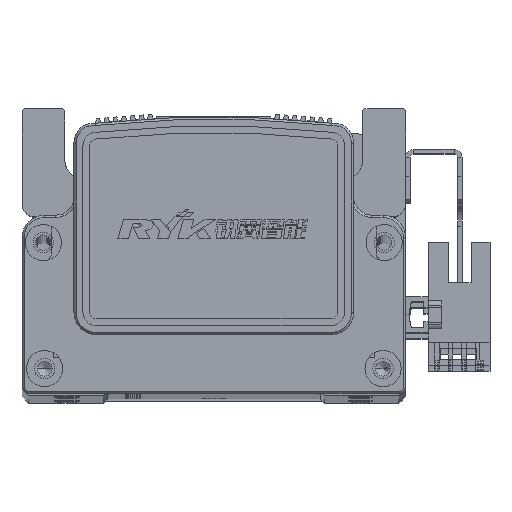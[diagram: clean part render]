
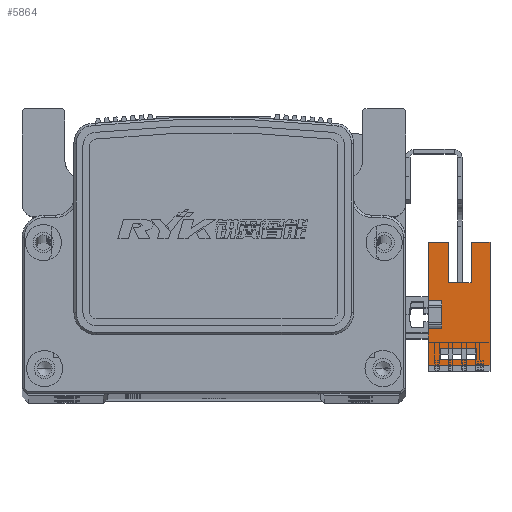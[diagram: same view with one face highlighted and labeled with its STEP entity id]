
A CAD part, top view. The second image highlights one B-rep face of the part: STEP entity #5864.
In plain terms, the highlighted planar face has unit normal (0, 0, 1) as drawn and (1, 0, 0) by its records, which use the part's own axes.
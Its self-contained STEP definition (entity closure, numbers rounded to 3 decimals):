
#179 = CARTESIAN_POINT ( 'NONE',  ( 3.2, 16.1, -6.5 ) ) ;
#1635 = VERTEX_POINT ( 'NONE', #179 ) ;
#5864 = ADVANCED_FACE ( 'NONE', ( #9162, #9169 ), #32457, .T. ) ;
#8737 = VERTEX_POINT ( 'NONE', #27479 ) ;
#8783 = VERTEX_POINT ( 'NONE', #26687 ) ;
#8789 = VERTEX_POINT ( 'NONE', #26702 ) ;
#8800 = VERTEX_POINT ( 'NONE', #26665 ) ;
#8814 = VERTEX_POINT ( 'NONE', #26649 ) ;
#8815 = VERTEX_POINT ( 'NONE', #26676 ) ;
#8835 = VERTEX_POINT ( 'NONE', #26681 ) ;
#8859 = VERTEX_POINT ( 'NONE', #26747 ) ;
#8863 = VERTEX_POINT ( 'NONE', #26746 ) ;
#9058 = VERTEX_POINT ( 'NONE', #26942 ) ;
#9063 = VERTEX_POINT ( 'NONE', #26949 ) ;
#9162 = FACE_OUTER_BOUND ( 'NONE', #33764, .T. ) ;
#9169 = FACE_BOUND ( 'NONE', #33774, .T. ) ;
#11793 = CARTESIAN_POINT ( 'NONE',  ( 3.2, 16.1, 3. ) ) ;
#11812 = CARTESIAN_POINT ( 'NONE',  ( 3.2, -3.1, 3. ) ) ;
#11824 = CARTESIAN_POINT ( 'NONE',  ( 3.2, 3.1, 3. ) ) ;
#11833 = CARTESIAN_POINT ( 'NONE',  ( 3.2, -11.1, 3. ) ) ;
#13202 = EDGE_CURVE ( 'NONE', #49712, #49723, #31430, .T. ) ;
#13234 = EDGE_CURVE ( 'NONE', #49713, #49749, #31476, .T. ) ;
#13241 = EDGE_CURVE ( 'NONE', #8737, #1635, #31485, .T. ) ;
#13341 = EDGE_CURVE ( 'NONE', #9058, #49712, #31511, .T. ) ;
#13358 = EDGE_CURVE ( 'NONE', #8863, #8814, #31640, .T. ) ;
#13371 = EDGE_CURVE ( 'NONE', #8789, #8737, #31670, .T. ) ;
#13396 = EDGE_CURVE ( 'NONE', #49749, #9063, #31688, .T. ) ;
#13466 = EDGE_CURVE ( 'NONE', #8789, #49713, #31758, .T. ) ;
#13478 = EDGE_CURVE ( 'NONE', #9063, #9058, #31804, .T. ) ;
#13531 = EDGE_CURVE ( 'NONE', #8800, #8815, #31776, .T. ) ;
#13551 = EDGE_CURVE ( 'NONE', #8783, #49723, #31747, .T. ) ;
#13623 = EDGE_CURVE ( 'NONE', #8815, #8783, #32045, .T. ) ;
#13645 = EDGE_CURVE ( 'NONE', #8835, #8863, #31957, .T. ) ;
#13662 = EDGE_CURVE ( 'NONE', #1635, #8800, #32129, .T. ) ;
#13688 = EDGE_CURVE ( 'NONE', #8859, #8835, #32189, .T. ) ;
#13693 = EDGE_CURVE ( 'NONE', #8814, #8859, #32257, .T. ) ;
#24790 = CARTESIAN_POINT ( 'NONE',  ( 3.2, 16.1, 3. ) ) ;
#24807 = DIRECTION ( 'NONE',  ( 0., 1., 0. ) ) ;
#24823 = CARTESIAN_POINT ( 'NONE',  ( 3.2, 16.1, -10.7 ) ) ;
#24831 = DIRECTION ( 'NONE',  ( 0., 1., 0. ) ) ;
#24833 = DIRECTION ( 'NONE',  ( 0., 0., 1. ) ) ;
#24836 = CARTESIAN_POINT ( 'NONE',  ( 3.2, 16.1, 3. ) ) ;
#24895 = CARTESIAN_POINT ( 'NONE',  ( 3.2, 16.1, -10.7 ) ) ;
#24897 = CARTESIAN_POINT ( 'NONE',  ( 3.2, 3.1, 3. ) ) ;
#24898 = CARTESIAN_POINT ( 'NONE',  ( 3.2, 16.1, 0.3 ) ) ;
#24903 = DIRECTION ( 'NONE',  ( 0., -1., 0. ) ) ;
#24909 = DIRECTION ( 'NONE',  ( 0., 1., 0. ) ) ;
#24922 = DIRECTION ( 'NONE',  ( 0., 0., 1. ) ) ;
#24953 = CARTESIAN_POINT ( 'NONE',  ( 3.2, -3.1, 3. ) ) ;
#24969 = DIRECTION ( 'NONE',  ( 0., 0., -1. ) ) ;
#24991 = CARTESIAN_POINT ( 'NONE',  ( 3.2, -11.1, 3. ) ) ;
#24996 = DIRECTION ( 'NONE',  ( 0., 0., 1. ) ) ;
#25017 = DIRECTION ( 'NONE',  ( 0., 0., 1. ) ) ;
#25054 = CARTESIAN_POINT ( 'NONE',  ( 3.2, 0., 0. ) ) ;
#25074 = CARTESIAN_POINT ( 'NONE',  ( 3.2, 7.1, -6.5 ) ) ;
#25076 = DIRECTION ( 'NONE',  ( 0., 1., 0. ) ) ;
#25136 = CARTESIAN_POINT ( 'NONE',  ( 3.2, 16.1, -10.7 ) ) ;
#25182 = DIRECTION ( 'NONE',  ( 0., 0., 1. ) ) ;
#25199 = DIRECTION ( 'NONE',  ( 0., 0., 1. ) ) ;
#25239 = CARTESIAN_POINT ( 'NONE',  ( 3.2, 25.1, -1.5 ) ) ;
#25250 = CARTESIAN_POINT ( 'NONE',  ( 3.2, -7.33, -10.7 ) ) ;
#25258 = DIRECTION ( 'NONE',  ( 0., 1., 0. ) ) ;
#25327 = CARTESIAN_POINT ( 'NONE',  ( 3.2, 16.1, -7.7 ) ) ;
#25333 = DIRECTION ( 'NONE',  ( 0., -1., 0. ) ) ;
#25363 = DIRECTION ( 'NONE',  ( 0., 1., 0. ) ) ;
#25366 = CARTESIAN_POINT ( 'NONE',  ( 3.2, 25.1, -6.5 ) ) ;
#25437 = CARTESIAN_POINT ( 'NONE',  ( 3.2, -9.83, -10.7 ) ) ;
#25473 = DIRECTION ( 'NONE',  ( 0., 0., -1. ) ) ;
#26649 = CARTESIAN_POINT ( 'NONE',  ( 3.2, -9.83, 0.3 ) ) ;
#26665 = CARTESIAN_POINT ( 'NONE',  ( 3.2, 7.1, -6.5 ) ) ;
#26676 = CARTESIAN_POINT ( 'NONE',  ( 3.2, 7.1, -1.5 ) ) ;
#26681 = CARTESIAN_POINT ( 'NONE',  ( 3.2, -7.33, -7.7 ) ) ;
#26687 = CARTESIAN_POINT ( 'NONE',  ( 3.2, 16.1, -1.5 ) ) ;
#26702 = CARTESIAN_POINT ( 'NONE',  ( 3.2, -11.1, -10.7 ) ) ;
#26746 = CARTESIAN_POINT ( 'NONE',  ( 3.2, -7.33, 0.3 ) ) ;
#26747 = CARTESIAN_POINT ( 'NONE',  ( 3.2, -9.83, -7.7 ) ) ;
#26942 = CARTESIAN_POINT ( 'NONE',  ( 3.2, 3.1, 0. ) ) ;
#26949 = CARTESIAN_POINT ( 'NONE',  ( 3.2, -3.1, 0. ) ) ;
#27479 = CARTESIAN_POINT ( 'NONE',  ( 3.2, 16.1, -10.7 ) ) ;
#28245 = AXIS2_PLACEMENT_3D ( 'NONE', #32461, #32364, #32359 ) ;
#31430 = LINE ( 'NONE', #24790, #31462 ) ;
#31462 = VECTOR ( 'NONE', #24807, 1000. ) ;
#31476 = LINE ( 'NONE', #24836, #31478 ) ;
#31478 = VECTOR ( 'NONE', #24831, 1000. ) ;
#31485 = LINE ( 'NONE', #24823, #31493 ) ;
#31493 = VECTOR ( 'NONE', #24833, 1000. ) ;
#31511 = LINE ( 'NONE', #24897, #31601 ) ;
#31601 = VECTOR ( 'NONE', #24922, 1000. ) ;
#31640 = LINE ( 'NONE', #24898, #31701 ) ;
#31646 = VECTOR ( 'NONE', #24909, 1000. ) ;
#31670 = LINE ( 'NONE', #24895, #31646 ) ;
#31674 = VECTOR ( 'NONE', #24969, 1000. ) ;
#31688 = LINE ( 'NONE', #24953, #31674 ) ;
#31701 = VECTOR ( 'NONE', #24903, 1000. ) ;
#31747 = LINE ( 'NONE', #25136, #31750 ) ;
#31750 = VECTOR ( 'NONE', #25182, 1000. ) ;
#31758 = LINE ( 'NONE', #24991, #31887 ) ;
#31767 = VECTOR ( 'NONE', #25076, 1000. ) ;
#31776 = LINE ( 'NONE', #25074, #31802 ) ;
#31802 = VECTOR ( 'NONE', #25017, 1000. ) ;
#31804 = LINE ( 'NONE', #25054, #31767 ) ;
#31887 = VECTOR ( 'NONE', #24996, 1000. ) ;
#31957 = LINE ( 'NONE', #25250, #32047 ) ;
#31993 = VECTOR ( 'NONE', #25258, 1000. ) ;
#32045 = LINE ( 'NONE', #25239, #31993 ) ;
#32047 = VECTOR ( 'NONE', #25199, 1000. ) ;
#32125 = VECTOR ( 'NONE', #25473, 1000. ) ;
#32129 = LINE ( 'NONE', #25366, #32244 ) ;
#32189 = LINE ( 'NONE', #25327, #32192 ) ;
#32192 = VECTOR ( 'NONE', #25363, 1000. ) ;
#32244 = VECTOR ( 'NONE', #25333, 1000. ) ;
#32257 = LINE ( 'NONE', #25437, #32125 ) ;
#32359 = DIRECTION ( 'NONE',  ( 0., 1., 0. ) ) ;
#32364 = DIRECTION ( 'NONE',  ( 1., 0., 0. ) ) ;
#32457 = PLANE ( 'NONE',  #28245 ) ;
#32461 = CARTESIAN_POINT ( 'NONE',  ( 3.2, 16.1, -10.7 ) ) ;
#33764 = EDGE_LOOP ( 'NONE', ( #36527, #36496, #36511, #36483, #36486, #36519, #36502, #36518, #36544, #36521, #36492, #36509 ) ) ;
#33774 = EDGE_LOOP ( 'NONE', ( #36522, #36545, #36599, #36528 ) ) ;
#36483 = ORIENTED_EDGE ( 'NONE', *, *, #13551, .T. ) ;
#36486 = ORIENTED_EDGE ( 'NONE', *, *, #13202, .F. ) ;
#36492 = ORIENTED_EDGE ( 'NONE', *, *, #13371, .T. ) ;
#36496 = ORIENTED_EDGE ( 'NONE', *, *, #13531, .T. ) ;
#36502 = ORIENTED_EDGE ( 'NONE', *, *, #13478, .F. ) ;
#36509 = ORIENTED_EDGE ( 'NONE', *, *, #13241, .T. ) ;
#36511 = ORIENTED_EDGE ( 'NONE', *, *, #13623, .T. ) ;
#36518 = ORIENTED_EDGE ( 'NONE', *, *, #13396, .F. ) ;
#36519 = ORIENTED_EDGE ( 'NONE', *, *, #13341, .F. ) ;
#36521 = ORIENTED_EDGE ( 'NONE', *, *, #13466, .F. ) ;
#36522 = ORIENTED_EDGE ( 'NONE', *, *, #13358, .F. ) ;
#36527 = ORIENTED_EDGE ( 'NONE', *, *, #13662, .T. ) ;
#36528 = ORIENTED_EDGE ( 'NONE', *, *, #13693, .F. ) ;
#36544 = ORIENTED_EDGE ( 'NONE', *, *, #13234, .F. ) ;
#36545 = ORIENTED_EDGE ( 'NONE', *, *, #13645, .F. ) ;
#36599 = ORIENTED_EDGE ( 'NONE', *, *, #13688, .F. ) ;
#49712 = VERTEX_POINT ( 'NONE', #11824 ) ;
#49713 = VERTEX_POINT ( 'NONE', #11833 ) ;
#49723 = VERTEX_POINT ( 'NONE', #11793 ) ;
#49749 = VERTEX_POINT ( 'NONE', #11812 ) ;
